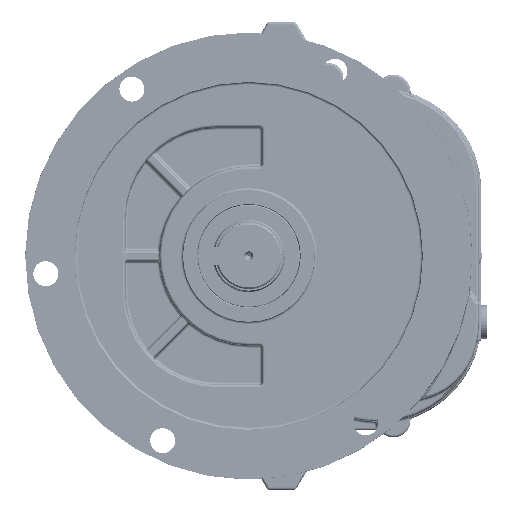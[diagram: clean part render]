
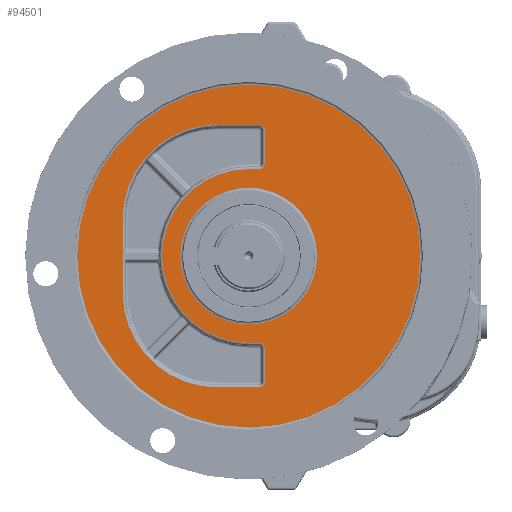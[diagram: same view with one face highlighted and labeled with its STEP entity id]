
A CAD part, left-side view. The second image highlights one B-rep face of the part: STEP entity #94501.
In plain terms, the highlighted planar face has unit normal (-1, 0, 0).
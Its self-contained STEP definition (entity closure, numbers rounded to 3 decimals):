
#2833=FACE_BOUND('',#30317,.T.);
#2834=FACE_BOUND('',#30318,.T.);
#10885=LINE('',#212612,#17185);
#10886=LINE('',#212620,#17186);
#10887=LINE('',#212629,#17187);
#10888=LINE('',#212635,#17188);
#10889=LINE('',#212645,#17189);
#10891=LINE('',#212656,#17191);
#10892=LINE('',#212664,#17192);
#17185=VECTOR('',#127901,10.);
#17186=VECTOR('',#127912,10.);
#17187=VECTOR('',#127925,10.);
#17188=VECTOR('',#127932,10.);
#17189=VECTOR('',#127945,10.);
#17191=VECTOR('',#127959,10.);
#17192=VECTOR('',#127970,10.);
#19517=PLANE('',#103767);
#24568=FACE_OUTER_BOUND('',#30316,.T.);
#30316=EDGE_LOOP('',(#85146));
#30317=EDGE_LOOP('',(#85147));
#30318=EDGE_LOOP('',(#85148,#85149,#85150,#85151,#85152,#85153,#85154,#85155,
#85156,#85157,#85158,#85159,#85160,#85161));
#34334=CIRCLE('',#103570,130.5);
#34374=CIRCLE('',#103637,4.);
#34377=CIRCLE('',#103642,66.);
#34383=CIRCLE('',#103651,72.);
#34387=CIRCLE('',#103657,72.);
#34391=CIRCLE('',#103663,4.);
#34394=CIRCLE('',#103668,4.);
#34395=CIRCLE('',#103670,4.);
#34447=CIRCLE('',#103768,52.);
#44848=VERTEX_POINT('',#212491);
#44877=VERTEX_POINT('',#212609);
#44878=VERTEX_POINT('',#212611);
#44879=VERTEX_POINT('',#212615);
#44880=VERTEX_POINT('',#212619);
#44881=VERTEX_POINT('',#212623);
#44882=VERTEX_POINT('',#212628);
#44883=VERTEX_POINT('',#212632);
#44884=VERTEX_POINT('',#212634);
#44885=VERTEX_POINT('',#212638);
#44887=VERTEX_POINT('',#212644);
#44889=VERTEX_POINT('',#212650);
#44890=VERTEX_POINT('',#212655);
#44891=VERTEX_POINT('',#212661);
#44892=VERTEX_POINT('',#212663);
#44927=VERTEX_POINT('',#213681);
#58223=EDGE_CURVE('',#44848,#44848,#34334,.T.);
#58287=EDGE_CURVE('',#44877,#44878,#10885,.T.);
#58289=EDGE_CURVE('',#44878,#44879,#34374,.T.);
#58291=EDGE_CURVE('',#44879,#44880,#10886,.T.);
#58293=EDGE_CURVE('',#44880,#44881,#34377,.T.);
#58296=EDGE_CURVE('',#44881,#44882,#10887,.T.);
#58299=EDGE_CURVE('',#44883,#44884,#10888,.T.);
#58301=EDGE_CURVE('',#44884,#44885,#34383,.T.);
#58304=EDGE_CURVE('',#44885,#44887,#10889,.T.);
#58307=EDGE_CURVE('',#44887,#44889,#34387,.T.);
#58310=EDGE_CURVE('',#44889,#44890,#10891,.T.);
#58312=EDGE_CURVE('',#44890,#44877,#34391,.T.);
#58314=EDGE_CURVE('',#44891,#44892,#10892,.T.);
#58316=EDGE_CURVE('',#44892,#44883,#34394,.T.);
#58317=EDGE_CURVE('',#44882,#44891,#34395,.T.);
#58404=EDGE_CURVE('',#44927,#44927,#34447,.T.);
#85146=ORIENTED_EDGE('',*,*,#58223,.F.);
#85147=ORIENTED_EDGE('',*,*,#58404,.F.);
#85148=ORIENTED_EDGE('',*,*,#58312,.F.);
#85149=ORIENTED_EDGE('',*,*,#58310,.F.);
#85150=ORIENTED_EDGE('',*,*,#58307,.F.);
#85151=ORIENTED_EDGE('',*,*,#58304,.F.);
#85152=ORIENTED_EDGE('',*,*,#58301,.F.);
#85153=ORIENTED_EDGE('',*,*,#58299,.F.);
#85154=ORIENTED_EDGE('',*,*,#58316,.F.);
#85155=ORIENTED_EDGE('',*,*,#58314,.F.);
#85156=ORIENTED_EDGE('',*,*,#58317,.F.);
#85157=ORIENTED_EDGE('',*,*,#58296,.F.);
#85158=ORIENTED_EDGE('',*,*,#58293,.F.);
#85159=ORIENTED_EDGE('',*,*,#58291,.F.);
#85160=ORIENTED_EDGE('',*,*,#58289,.F.);
#85161=ORIENTED_EDGE('',*,*,#58287,.F.);
#94501=ADVANCED_FACE('',(#24568,#2833,#2834),#19517,.F.);
#103570=AXIS2_PLACEMENT_3D('',#212492,#127746,#127747);
#103637=AXIS2_PLACEMENT_3D('',#212616,#127906,#127907);
#103642=AXIS2_PLACEMENT_3D('',#212624,#127917,#127918);
#103651=AXIS2_PLACEMENT_3D('',#212639,#127937,#127938);
#103657=AXIS2_PLACEMENT_3D('',#212651,#127951,#127952);
#103663=AXIS2_PLACEMENT_3D('',#212659,#127964,#127965);
#103668=AXIS2_PLACEMENT_3D('',#212667,#127975,#127976);
#103670=AXIS2_PLACEMENT_3D('',#212669,#127979,#127980);
#103767=AXIS2_PLACEMENT_3D('',#213680,#128195,#128196);
#103768=AXIS2_PLACEMENT_3D('',#213682,#128197,#128198);
#127746=DIRECTION('center_axis',(1.,0.,0.));
#127747=DIRECTION('ref_axis',(0.,0.673,0.74));
#127901=DIRECTION('',(0.,0.,1.));
#127906=DIRECTION('center_axis',(-1.,0.,0.));
#127907=DIRECTION('ref_axis',(0.,-0.707,0.707));
#127912=DIRECTION('',(0.,1.,0.));
#127917=DIRECTION('center_axis',(1.,0.,0.));
#127918=DIRECTION('ref_axis',(0.,1.,0.));
#127925=DIRECTION('',(0.,-1.,0.));
#127932=DIRECTION('',(0.,1.,0.));
#127937=DIRECTION('center_axis',(-1.,0.,0.));
#127938=DIRECTION('ref_axis',(0.,0.707,0.707));
#127945=DIRECTION('',(0.,0.,-1.));
#127951=DIRECTION('center_axis',(-1.,0.,0.));
#127952=DIRECTION('ref_axis',(0.,0.707,-0.707));
#127959=DIRECTION('',(0.,-1.,0.));
#127964=DIRECTION('center_axis',(-1.,0.,0.));
#127965=DIRECTION('ref_axis',(0.,-0.707,-0.707));
#127970=DIRECTION('',(0.,0.,1.));
#127975=DIRECTION('center_axis',(-1.,0.,0.));
#127976=DIRECTION('ref_axis',(0.,-0.707,0.707));
#127979=DIRECTION('center_axis',(-1.,0.,0.));
#127980=DIRECTION('ref_axis',(0.,-0.707,-0.707));
#128195=DIRECTION('center_axis',(1.,0.,0.));
#128196=DIRECTION('ref_axis',(0.,0.,-1.));
#128197=DIRECTION('center_axis',(-1.,0.,0.));
#128198=DIRECTION('ref_axis',(0.,0.,-1.));
#212491=CARTESIAN_POINT('',(-156.2,0.,130.5));
#212492=CARTESIAN_POINT('Origin',(-156.2,0.,0.));
#212609=CARTESIAN_POINT('',(-156.2,-12.,-96.));
#212611=CARTESIAN_POINT('',(-156.2,-12.,-70.));
#212612=CARTESIAN_POINT('',(-156.2,-12.,-34.));
#212615=CARTESIAN_POINT('',(-156.2,-8.,-66.));
#212616=CARTESIAN_POINT('Origin',(-156.2,-8.,-70.));
#212619=CARTESIAN_POINT('',(-156.2,0.,-66.));
#212620=CARTESIAN_POINT('',(-156.2,22.002,-66.));
#212623=CARTESIAN_POINT('',(-156.2,0.,66.));
#212624=CARTESIAN_POINT('Origin',(-156.2,0.,0.));
#212628=CARTESIAN_POINT('',(-156.2,-8.,66.));
#212629=CARTESIAN_POINT('',(-156.2,17.002,66.));
#212632=CARTESIAN_POINT('',(-156.2,-8.,100.));
#212634=CARTESIAN_POINT('',(-156.2,24.,100.));
#212635=CARTESIAN_POINT('',(-156.2,34.002,100.));
#212638=CARTESIAN_POINT('',(-156.2,96.,28.));
#212639=CARTESIAN_POINT('Origin',(-156.2,24.,28.));
#212644=CARTESIAN_POINT('',(-156.2,96.,-28.));
#212645=CARTESIAN_POINT('',(-156.2,96.,-14.));
#212650=CARTESIAN_POINT('',(-156.2,24.,-100.));
#212651=CARTESIAN_POINT('Origin',(-156.2,24.,-28.));
#212655=CARTESIAN_POINT('',(-156.2,-8.,-100.));
#212656=CARTESIAN_POINT('',(-156.2,17.002,-100.));
#212659=CARTESIAN_POINT('Origin',(-156.2,-8.,-96.));
#212661=CARTESIAN_POINT('',(-156.2,-12.,70.));
#212663=CARTESIAN_POINT('',(-156.2,-12.,96.));
#212664=CARTESIAN_POINT('',(-156.2,-12.,49.));
#212667=CARTESIAN_POINT('Origin',(-156.2,-8.,96.));
#212669=CARTESIAN_POINT('Origin',(-156.2,-8.,70.));
#213680=CARTESIAN_POINT('Origin',(-156.2,44.003,0.));
#213681=CARTESIAN_POINT('',(-156.2,0.,52.));
#213682=CARTESIAN_POINT('Origin',(-156.2,0.,0.));
